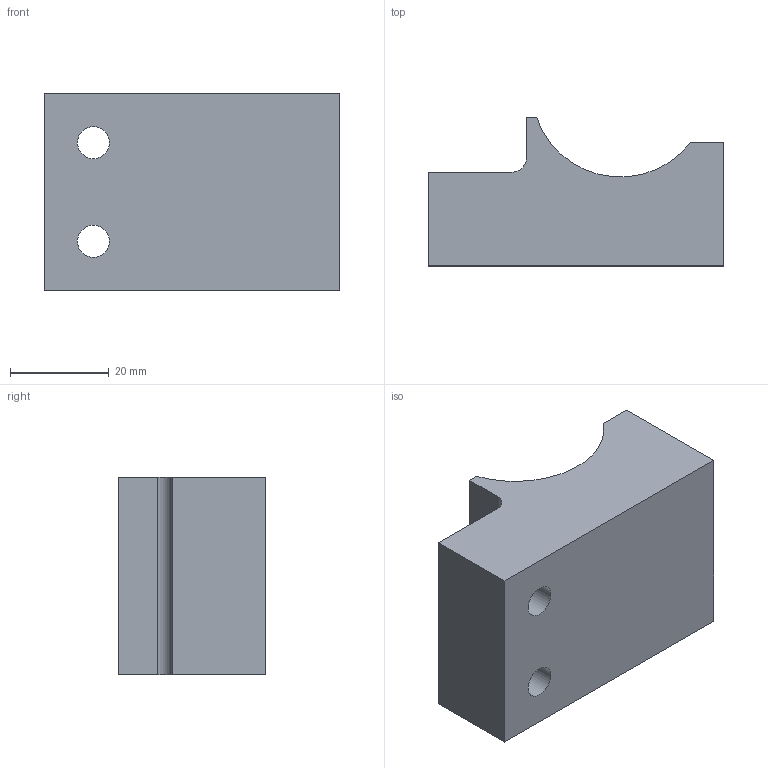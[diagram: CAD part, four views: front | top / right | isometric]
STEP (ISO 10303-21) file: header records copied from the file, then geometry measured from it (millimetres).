
FILE_DESCRIPTION (( 'STEP AP214' ), '1' );
FILE_NAME ('N40131.step', '2024-12-03T16:27:21', ( '' ), ( '' ), 'SwSTEP 2.0', 'SolidWorks 2023', '' );
FILE_SCHEMA (( 'AUTOMOTIVE_DESIGN' ));
Length unit declared in the file: millimetre
Products named in the file (1): N40131
Bounding box: 60 x 30 x 40 mm (x, y, z)
Volume: 49092.3 mm3; surface area: 10404.6 mm2
Topology: 1 solids, 1 shells, 13 faces, 33 edges, 22 vertices
Faces by surface type: plane 9, cylinder 4
Full cylindrical faces by diameter (mm): 6.5 x2
Entity records: 416 total; most frequent: DIRECTION 67, CARTESIAN_POINT 67, ORIENTED_EDGE 62, EDGE_CURVE 31, VECTOR 23, LINE 23, AXIS2_PLACEMENT_3D 22, VERTEX_POINT 22
